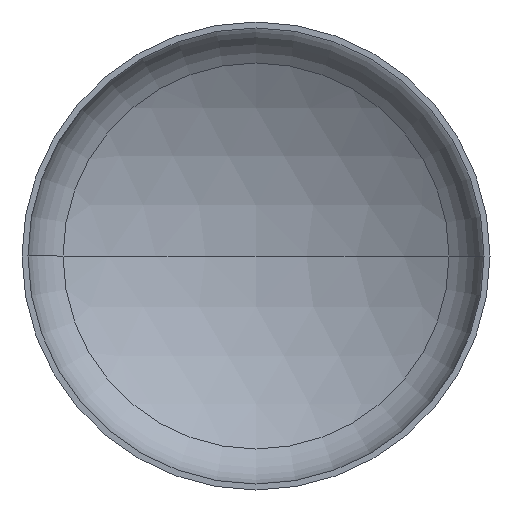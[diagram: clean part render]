
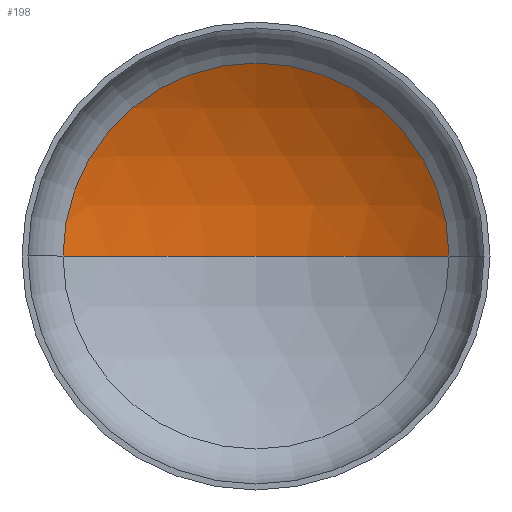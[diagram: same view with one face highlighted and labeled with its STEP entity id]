
A CAD part, front view. The second image highlights one B-rep face of the part: STEP entity #198.
In plain terms, the highlighted spherical face has radius 880 mm.
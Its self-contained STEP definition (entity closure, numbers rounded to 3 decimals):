
#4 = CIRCLE ( 'NONE', #72, 880. ) ;
#6 = ORIENTED_EDGE ( 'NONE', *, *, #146, .T. ) ;
#15 = EDGE_LOOP ( 'NONE', ( #17, #54, #6 ) ) ;
#17 = ORIENTED_EDGE ( 'NONE', *, *, #149, .F. ) ;
#21 = DIRECTION ( 'NONE',  ( 1., 0., 0. ) ) ;
#26 = DIRECTION ( 'NONE',  ( 0., -1., 0. ) ) ;
#30 = CARTESIAN_POINT ( 'NONE',  ( 0., 190.672, 0. ) ) ;
#52 = AXIS2_PLACEMENT_3D ( 'NONE', #236, #266, #243 ) ;
#54 = ORIENTED_EDGE ( 'NONE', *, *, #148, .T. ) ;
#59 = VERTEX_POINT ( 'NONE', #226 ) ;
#72 = AXIS2_PLACEMENT_3D ( 'NONE', #206, #207, #215 ) ;
#75 = AXIS2_PLACEMENT_3D ( 'NONE', #214, #364, #384 ) ;
#78 = AXIS2_PLACEMENT_3D ( 'NONE', #30, #26, #21 ) ;
#89 = VERTEX_POINT ( 'NONE', #233 ) ;
#105 = CARTESIAN_POINT ( 'NONE',  ( -453.634, 190.672, 0. ) ) ;
#126 = CIRCLE ( 'NONE', #78, 453.634 ) ;
#129 = SPHERICAL_SURFACE ( 'NONE', #52, 880. ) ;
#146 = EDGE_CURVE ( 'NONE', #89, #377, #126, .T. ) ;
#148 = EDGE_CURVE ( 'NONE', #59, #89, #358, .T. ) ;
#149 = EDGE_CURVE ( 'NONE', #59, #377, #4, .T. ) ;
#164 = FACE_OUTER_BOUND ( 'NONE', #15, .T. ) ;
#198 = ADVANCED_FACE ( 'NONE', ( #164 ), #129, .F. ) ;
#206 = CARTESIAN_POINT ( 'NONE',  ( 0., -563.395, 0. ) ) ;
#207 = DIRECTION ( 'NONE',  ( 0., 0., 1. ) ) ;
#214 = CARTESIAN_POINT ( 'NONE',  ( 0., -563.395, 0. ) ) ;
#215 = DIRECTION ( 'NONE',  ( 1., 0., 0. ) ) ;
#226 = CARTESIAN_POINT ( 'NONE',  ( 0., 316.605, 0. ) ) ;
#233 = CARTESIAN_POINT ( 'NONE',  ( 453.634, 190.672, 0. ) ) ;
#236 = CARTESIAN_POINT ( 'NONE',  ( 0., -563.395, 0. ) ) ;
#243 = DIRECTION ( 'NONE',  ( -1., 0., 0. ) ) ;
#266 = DIRECTION ( 'NONE',  ( 0., 0., -1. ) ) ;
#358 = CIRCLE ( 'NONE', #75, 880. ) ;
#364 = DIRECTION ( 'NONE',  ( 0., 0., -1. ) ) ;
#377 = VERTEX_POINT ( 'NONE', #105 ) ;
#384 = DIRECTION ( 'NONE',  ( -1., 0., 0. ) ) ;
